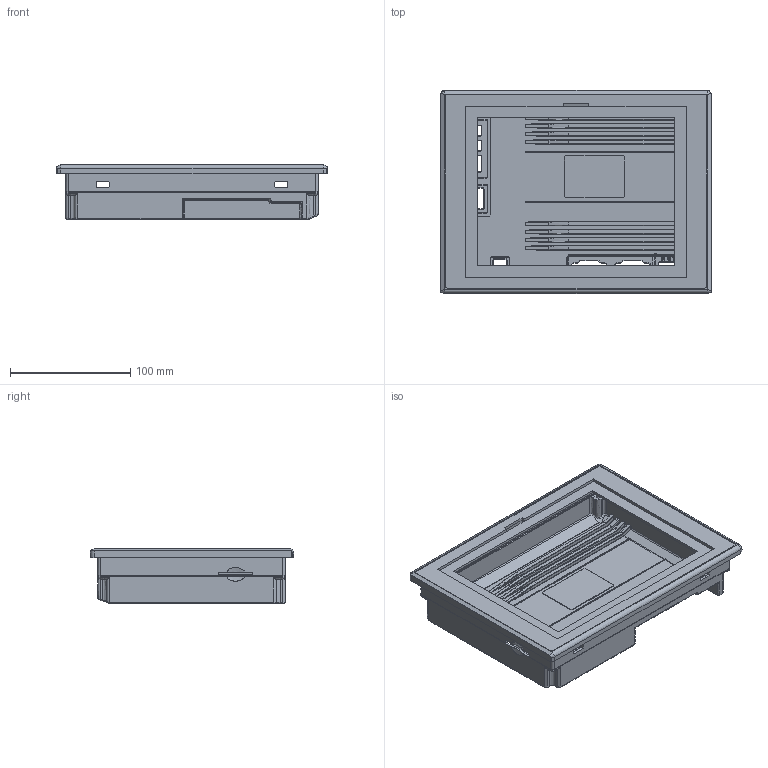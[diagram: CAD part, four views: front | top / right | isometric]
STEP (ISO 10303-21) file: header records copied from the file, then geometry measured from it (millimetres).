
FILE_DESCRIPTION(/* description */ (''),/* implementation_level */ '2;1');
FILE_NAME(/* name */ 'TGM865~1',/* time_stamp */ '2022-11-30T14:08:46+08:00',/* author */ (''),/* organization */ (''),/* preprocessor_version */ 'ST-DEVELOPER v15',/* originating_system */ '',/* authorisation */ '');
FILE_SCHEMA (('AUTOMOTIVE_DESIGN'));
Length unit declared in the file: millimetre
Products named in the file (1): Document
Bounding box: 224.4 x 168.7 x 45.5 mm (x, y, z)
Surface area: 107202.5 mm2 (no closed solid volume)
Topology: 0 solids, 1050 shells, 1050 faces, 5207 edges, 5197 vertices
Faces by surface type: bspline 608, plane 442
Entity records: 70526 total; most frequent: CARTESIAN_POINT 43940, ORIENTED_EDGE 5197, EDGE_CURVE 5197, VERTEX_POINT 5197, B_SPLINE_CURVE_WITH_KNOTS 3267, EDGE_LOOP 1086, PRESENTATION_LAYER_ASSIGNMENT 1050, SHELL_BASED_SURFACE_MODEL 1050
